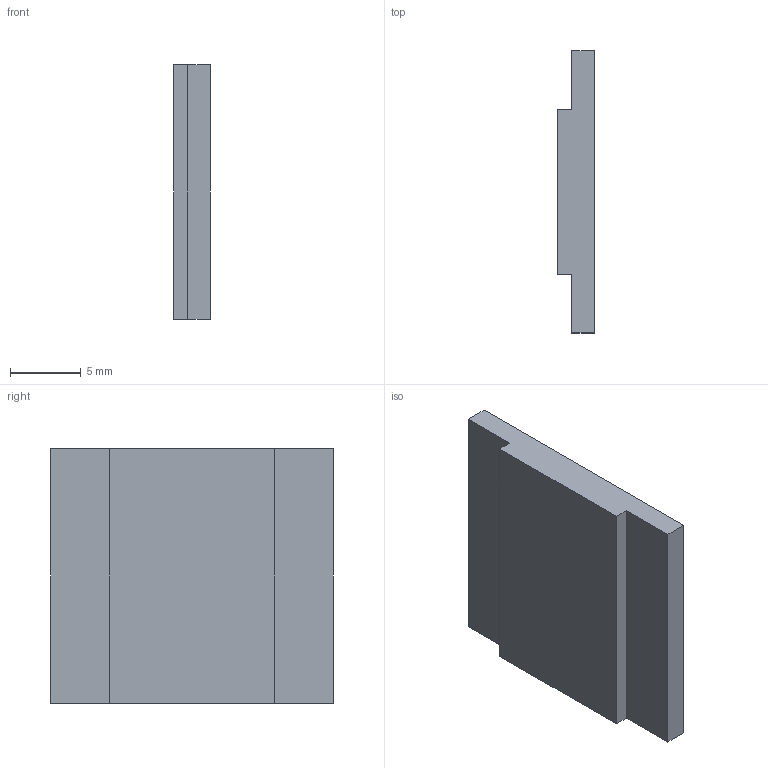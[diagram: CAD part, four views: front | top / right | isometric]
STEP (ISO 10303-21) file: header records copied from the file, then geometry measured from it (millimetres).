
FILE_DESCRIPTION(('Open CASCADE Model'),'2;1');
FILE_NAME('Open CASCADE Shape Model','2026-10-17T22:08:14',('Author'),( 'Open CASCADE'),'Open CASCADE STEP processor 7.9','Open CASCADE 7.9' ,'Unknown');
FILE_SCHEMA(('AUTOMOTIVE_DESIGN { 1 0 10303 214 1 1 1 1 }'));
Length unit declared in the file: millimetre
Products named in the file (1): Open CASCADE STEP translator 7.9 3
Bounding box: 2.6 x 20 x 18 mm (x, y, z)
Volume: 786.6 mm3; surface area: 901 mm2
Topology: 1 solids, 1 shells, 10 faces, 24 edges, 16 vertices
Faces by surface type: plane 10
Entity records: 610 total; most frequent: CARTESIAN_POINT 99, DIRECTION 94, LINE 72, VECTOR 72, ORIENTED_EDGE 48, PCURVE 48, DEFINITIONAL_REPRESENTATION 48, EDGE_CURVE 24
